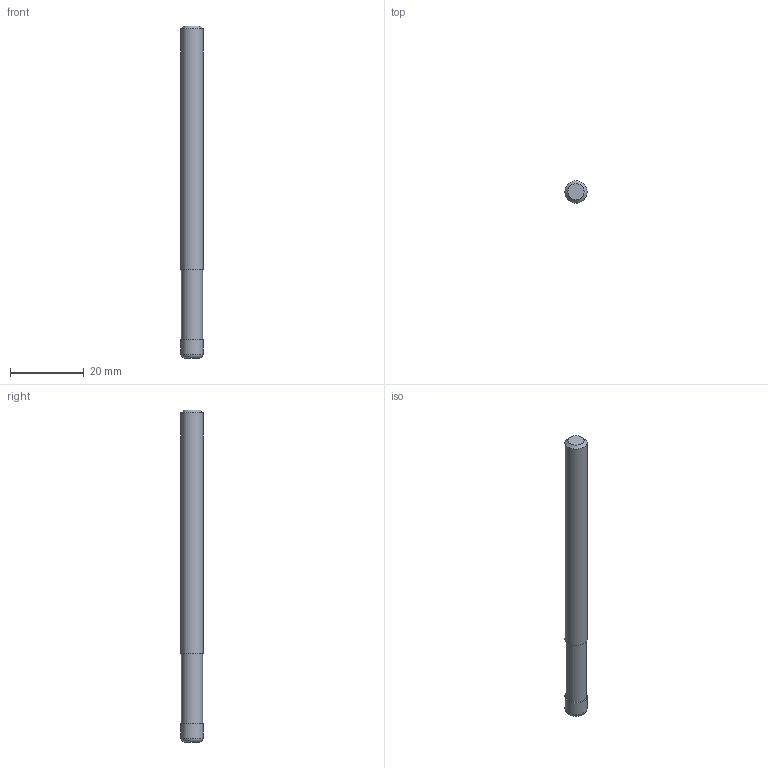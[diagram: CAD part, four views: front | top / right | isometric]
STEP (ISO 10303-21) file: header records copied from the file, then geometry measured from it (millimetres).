
FILE_DESCRIPTION((''),'2;1');
FILE_NAME('C:\Users\nsx150\AppData\Local\Temp\Mastercam 2021\3SYKECWX22\TEMP.step','2021-04-22T09:52:49',(''),(''),'STEP Write','Mastercam 2021 ... CNC Software, Inc.','');
FILE_SCHEMA(('AUTOMOTIVE_DESIGN'));
Length unit declared in the file: millimetre
Products named in the file (1): None
Bounding box: 6 x 6 x 90 mm (x, y, z)
Volume: 2483.1 mm3; surface area: 1773.4 mm2
Topology: 2 solids, 2 shells, 10 faces, 13 edges, 8 vertices
Faces by surface type: plane 5, cylinder 3, torus 1, cone 1
Full cylindrical faces by diameter (mm): 5.7 x1, 6 x2
Entity records: 232 total; most frequent: DIRECTION 40, CARTESIAN_POINT 28, AXIS2_PLACEMENT_3D 20, ORIENTED_EDGE 16, EDGE_LOOP 16, STYLED_ITEM 13, ADVANCED_FACE 10, FACE_BOUND 10
